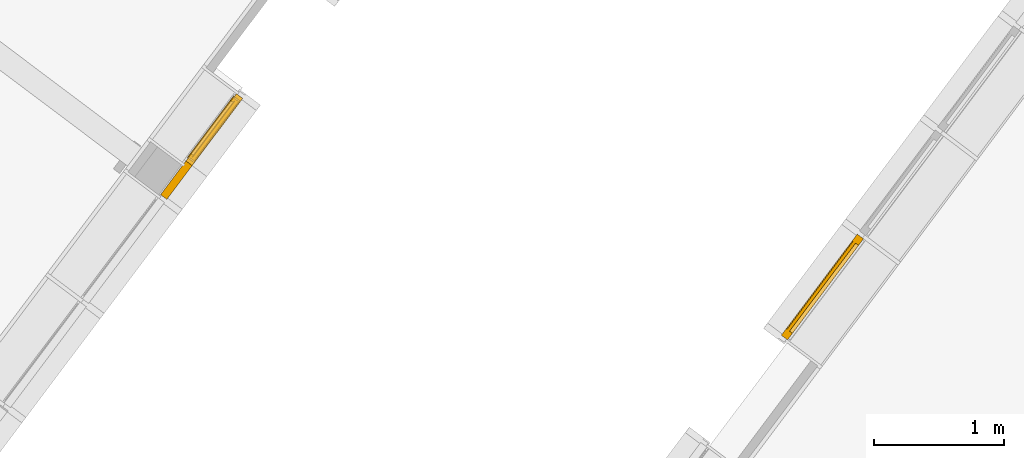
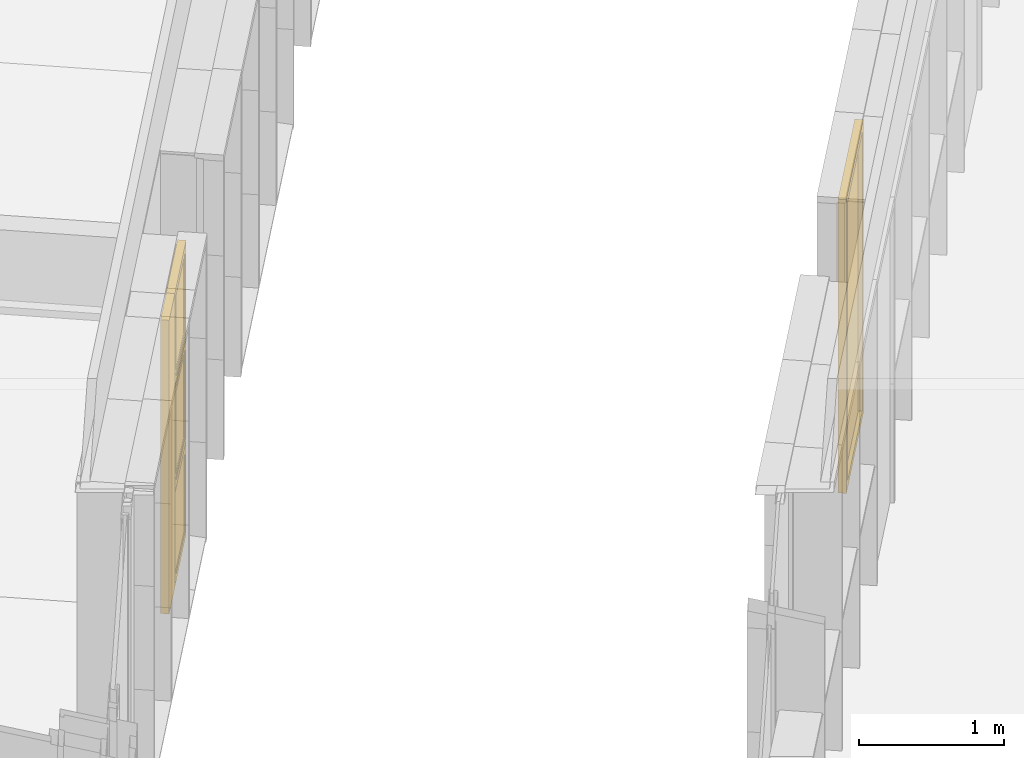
# One storey, part 186 of 243: 4 windows, 1 door, 2 elements without a shape of their own.
"""IFC2X3 building model written with IfcOpenShell, lengths in metres."""

from ifc_helpers import new_model, entity, si_unit, converted_unit, derived_unit, direction, frame, origin, origin_2d_with_axis, place, context, subcontext, project, spatial, rectangle, extrude, faceted_brep, source, transform, mapped, material, material_list, type_object, type_shapes, element, aggregate, save


model = new_model("IFC2X3")

# Units and contexts
model_context = context("Model", 3, precision=1e-05, world=origin(), true_north=direction((6.123031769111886e-17, 1.0)))
body_context = subcontext(model_context, "Body", "Model", "MODEL_VIEW")
ifc_project = project(units=[si_unit("LENGTHUNIT", "METRE"), si_unit("AREAUNIT", "SQUARE_METRE"), si_unit("VOLUMEUNIT", "CUBIC_METRE"), converted_unit("PLANEANGLEUNIT", "DEGREE", entity("IfcRatioMeasure", 0.017453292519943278), si_unit("PLANEANGLEUNIT", "RADIAN"), dimensions=[0, 0, 0, 0, 0, 0, 0]), si_unit("MASSUNIT", "GRAM", prefix="KILO"), derived_unit("MASSDENSITYUNIT", [(si_unit("MASSUNIT", "GRAM", prefix="KILO"), 1), (si_unit("LENGTHUNIT", "METRE"), -3)]), derived_unit("IONCONCENTRATIONUNIT", [(si_unit("MASSUNIT", "GRAM", prefix="KILO"), 1), (si_unit("LENGTHUNIT", "METRE"), -3)]), derived_unit("MOMENTOFINERTIAUNIT", [(si_unit("LENGTHUNIT", "METRE"), 4)]), si_unit("TIMEUNIT", "SECOND"), si_unit("FREQUENCYUNIT", "HERTZ"), si_unit("THERMODYNAMICTEMPERATUREUNIT", "DEGREE_CELSIUS"), derived_unit("THERMALTRANSMITTANCEUNIT", [(si_unit("MASSUNIT", "GRAM", prefix="KILO"), 1), (si_unit("THERMODYNAMICTEMPERATUREUNIT", "KELVIN"), -1), (si_unit("TIMEUNIT", "SECOND"), -3)]), derived_unit("THERMALCONDUCTANCEUNIT", [(si_unit("MASSUNIT", "GRAM", prefix="KILO"), 1), (si_unit("THERMODYNAMICTEMPERATUREUNIT", "KELVIN"), -1), (si_unit("TIMEUNIT", "SECOND"), -3), (si_unit("LENGTHUNIT", "METRE"), 1)]), derived_unit("VOLUMETRICFLOWRATEUNIT", [(si_unit("LENGTHUNIT", "METRE"), 3), (si_unit("TIMEUNIT", "SECOND"), -1)]), derived_unit("MASSFLOWRATEUNIT", [(si_unit("MASSUNIT", "GRAM", prefix="KILO"), 1), (si_unit("TIMEUNIT", "SECOND"), -1)]), derived_unit("ROTATIONALFREQUENCYUNIT", [(si_unit("TIMEUNIT", "SECOND"), -1)]), si_unit("ELECTRICCURRENTUNIT", "AMPERE"), si_unit("ELECTRICVOLTAGEUNIT", "VOLT"), si_unit("POWERUNIT", "WATT"), si_unit("FORCEUNIT", "NEWTON", prefix="KILO"), si_unit("ILLUMINANCEUNIT", "LUX"), si_unit("LUMINOUSFLUXUNIT", "LUMEN"), si_unit("LUMINOUSINTENSITYUNIT", "CANDELA"), derived_unit("USERDEFINED", [(si_unit("MASSUNIT", "GRAM", prefix="KILO"), -1), (si_unit("LENGTHUNIT", "METRE"), -2), (si_unit("TIMEUNIT", "SECOND"), 3), (si_unit("LUMINOUSFLUXUNIT", "LUMEN"), 1)]), derived_unit("USERDEFINED", [(si_unit("MASSUNIT", "GRAM", prefix="KILO"), 1), (si_unit("TIMEUNIT", "SECOND"), -3), (si_unit("LENGTHUNIT", "METRE"), 3), (si_unit("ELECTRICCURRENTUNIT", "AMPERE"), -2)]), derived_unit("SOUNDPOWERUNIT", [(si_unit("MASSUNIT", "GRAM", prefix="KILO"), 1), (si_unit("TIMEUNIT", "SECOND"), -3), (si_unit("LENGTHUNIT", "METRE"), 2)]), derived_unit("SOUNDPRESSUREUNIT", [(si_unit("MASSUNIT", "GRAM", prefix="KILO"), 1), (si_unit("LENGTHUNIT", "METRE"), -1), (si_unit("TIMEUNIT", "SECOND"), -2)]), derived_unit("LINEARVELOCITYUNIT", [(si_unit("LENGTHUNIT", "METRE"), 1), (si_unit("TIMEUNIT", "SECOND"), -1)]), si_unit("PRESSUREUNIT", "PASCAL"), derived_unit("USERDEFINED", [(si_unit("MASSUNIT", "GRAM", prefix="KILO"), 1), (si_unit("LENGTHUNIT", "METRE"), -2), (si_unit("TIMEUNIT", "SECOND"), -2)]), derived_unit("LINEARFORCEUNIT", [(si_unit("MASSUNIT", "GRAM", prefix="KILO"), 1), (si_unit("TIMEUNIT", "SECOND"), -2)]), derived_unit("PLANARFORCEUNIT", [(si_unit("MASSUNIT", "GRAM", prefix="KILO"), 1), (si_unit("LENGTHUNIT", "METRE"), -1), (si_unit("TIMEUNIT", "SECOND"), -2)]), derived_unit("SPECIFICHEATCAPACITYUNIT", [(si_unit("THERMODYNAMICTEMPERATUREUNIT", "KELVIN"), -1), (si_unit("LENGTHUNIT", "METRE"), 2), (si_unit("TIMEUNIT", "SECOND"), -2)]), derived_unit("HEATINGVALUEUNIT", [(si_unit("LENGTHUNIT", "METRE"), 2), (si_unit("TIMEUNIT", "SECOND"), -2)]), derived_unit("VAPORPERMEABILITYUNIT", [(si_unit("LENGTHUNIT", "METRE"), -1), (si_unit("TIMEUNIT", "SECOND"), 1)]), derived_unit("DYNAMICVISCOSITYUNIT", [(si_unit("MASSUNIT", "GRAM", prefix="KILO"), 1), (si_unit("TIMEUNIT", "SECOND"), -1), (si_unit("LENGTHUNIT", "METRE"), -1)]), derived_unit("THERMALEXPANSIONCOEFFICIENTUNIT", [(si_unit("THERMODYNAMICTEMPERATUREUNIT", "KELVIN"), -1)]), derived_unit("MODULUSOFELASTICITYUNIT", [(si_unit("MASSUNIT", "GRAM", prefix="KILO"), 1), (si_unit("LENGTHUNIT", "METRE"), -1), (si_unit("TIMEUNIT", "SECOND"), -2)]), derived_unit("ISOTHERMALMOISTURECAPACITYUNIT", [(si_unit("LENGTHUNIT", "METRE"), 3), (si_unit("MASSUNIT", "GRAM", prefix="KILO"), -1)]), derived_unit("MOISTUREDIFFUSIVITYUNIT", [(si_unit("TIMEUNIT", "SECOND"), -1), (si_unit("LENGTHUNIT", "METRE"), 2)])], contexts=[model_context])

# Site, building, storey
site_placement = place(None, frame((0.0, 0.0, 235.0), z_axis=(0.0, 0.0, 1.0), x_axis=(-0.7996477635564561, 0.6004693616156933, 0.0)))
site = spatial("IfcSite", under=ifc_project, at=site_placement, Name="Default", CompositionType="ELEMENT")
building_placement = place(site_placement, origin())
building = spatial("IfcBuilding", under=site, at=building_placement, CompositionType="ELEMENT")
storey_placement = place(building_placement, origin())
storey = spatial("IfcBuildingStorey", under=building, at=storey_placement, Name="P0- Escola", CompositionType="ELEMENT", Elevation=0.0)

# Curtain wall, door, windows
curtain_wall_type_1 = type_object("IfcCurtainWallType", Name="Muro cortina:MC- EXT- MC2", PredefinedType="NOTDEFINED")
curtain_wall_1_placement = place(storey_placement, origin())
curtain_wall_1 = element("IfcCurtainWall", 1, at=curtain_wall_1_placement, inside=storey, type_object=curtain_wall_type_1, Name="Muro cortina:MC- EXT- MC2", ObjectType="Muro cortina:MC- EXT- MC2")
ifc_material_1 = material(Name="_Alumini- T1- Perfil")
ifc_material_2 = material(Name="_Aillament")
ifc_material_list_1 = material_list([ifc_material_1, ifc_material_2])
door_style = type_object("IfcDoorStyle", Name="MC- Alu- panell especific xapa:MC- Alu- panell especific xapa", ConstructionType="NOTDEFINED", OperationType="NOTDEFINED", ParameterTakesPrecedence=False, Sizeable=False, material=ifc_material_list_1)
shared_shape_1 = source(origin(), body_context, "Body", "SweptSolid", [
    extrude(rectangle(XDim=0.005999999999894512, YDim=0.32412629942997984, at=origin_2d_with_axis()), frame((0.0, -0.057000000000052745, 0.0), z_axis=(0.0, 0.0, 1.0), x_axis=(0.0, -1.0, 0.0)), (0.0, 0.0, 1.0), 2.471449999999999),
    extrude(rectangle(XDim=0.32412629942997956, YDim=0.048000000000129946, at=origin_2d_with_axis()), frame((0.0, -0.030000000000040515, 0.0)), (0.0, 0.0, 1.0), 2.471449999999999),
    extrude(rectangle(XDim=0.005999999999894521, YDim=0.3241262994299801, at=origin_2d_with_axis()), frame((0.0, -0.003000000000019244, 0.0), z_axis=(0.0, 0.0, 1.0), x_axis=(0.0, -1.0, 0.0)), (0.0, 0.0, 1.0), 2.471449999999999),
])
type_shapes(door_style, [shared_shape_1])
door_placement = place(curtain_wall_1_placement, frame((53.74514768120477, -23.592254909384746, 0.03229999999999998), z_axis=(0.0, 0.0, 1.0), x_axis=(0.0, 1.0, 0.0)))
door = element("IfcDoor", 2, at=door_placement, type_object=door_style, material=ifc_material_list_1, Name="MC- Alu- panell especific xapa:MC- Alu- panell especific xapa", ObjectType="MC- Alu- panell especific xapa:MC- Alu- panell especific xapa", OverallHeight=2.471449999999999, OverallWidth=0.3241262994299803, context=body_context, shape_type="MappedRepresentation", body=[
    mapped(shared_shape_1, transform((0.0, 0.0, 0.0), scale=1.0)),
])
ifc_material_3 = material(Name="_Vidre")
ifc_material_list_2 = material_list([ifc_material_3, ifc_material_1])
window_style_1 = type_object("IfcWindowStyle", Name="MC- Alu- Conjunt vidre fix- 62x60 cm:MC- Alu- Conjunt vidre fix- 62x60 cm", ConstructionType="NOTDEFINED", OperationType="NOTDEFINED", ParameterTakesPrecedence=False, Sizeable=False, material=ifc_material_list_2)
shared_shape_2 = source(origin(), body_context, "Body", "Brep", [
    faceted_brep([(0.2741301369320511, -0.007600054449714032, 0.048806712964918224), (0.2741301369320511, -0.03160022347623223, 0.048806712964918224), (-0.27413013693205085, -0.03160022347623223, 0.048806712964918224), (-0.27413013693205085, -0.007600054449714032, 0.048806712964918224), (0.2741301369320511, -0.007600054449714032, 0.7387000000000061), (-0.27413013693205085, -0.007600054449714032, 0.7387000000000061), (-0.27413013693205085, -0.03160022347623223, 0.7387000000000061), (0.2741301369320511, -0.03160022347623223, 0.7387000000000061)], [[[0, 1, 2, 3]], [[4, 0, 3, 5]], [[5, 3, 2, 6]], [[6, 2, 1, 7]], [[7, 1, 0, 4]], [[4, 5, 6, 7]]]),
    faceted_brep([(0.3229368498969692, -0.05999999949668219, 0.7877000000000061), (0.3229368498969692, -0.05999999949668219, 0.0), (0.3229368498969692, 0.0, 0.0), (0.3229368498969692, 0.0, 0.7877000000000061), (-0.3229368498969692, 0.0, 0.7877000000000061), (-0.3229368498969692, 0.0, 0.0), (0.260130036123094, 0.0, 0.724893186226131), (-0.260130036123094, 0.0, 0.7248931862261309), (-0.2601300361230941, 0.0, 0.06280681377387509), (0.260130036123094, 0.0, 0.06280681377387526), (-0.3229368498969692, -0.05999999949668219, 0.0), (-0.3229368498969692, -0.05999999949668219, 0.7877000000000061), (-0.2601328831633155, -0.05999999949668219, 0.7248960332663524), (0.2601328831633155, -0.05999999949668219, 0.7248960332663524), (0.2601328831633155, -0.05999999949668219, 0.0628039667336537), (-0.2601328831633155, -0.05999999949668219, 0.0628039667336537), (0.2601328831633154, -0.03160022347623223, 0.7248960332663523), (0.2601328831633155, -0.03160022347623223, 0.0628039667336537), (-0.2601328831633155, -0.03160022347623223, 0.06280396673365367), (-0.2601328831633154, -0.03160022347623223, 0.7248960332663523), (-0.274130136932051, -0.03160022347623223, 0.7388932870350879), (0.274130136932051, -0.03160022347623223, 0.7388932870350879), (0.274130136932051, -0.03160022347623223, 0.048806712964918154), (-0.274130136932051, -0.03160022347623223, 0.04880671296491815), (0.274130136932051, -0.007600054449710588, 0.7388932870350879), (0.274130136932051, -0.007600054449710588, 0.04880671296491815), (-0.274130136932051, -0.007600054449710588, 0.048806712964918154), (-0.274130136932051, -0.007600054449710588, 0.7388932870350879), (-0.26013003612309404, -0.007600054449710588, 0.724893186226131), (0.26013003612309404, -0.007600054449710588, 0.724893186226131), (0.26013003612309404, -0.007600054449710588, 0.06280681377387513), (-0.26013003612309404, -0.007600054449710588, 0.06280681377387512)], [[[0, 1, 2, 3]], [[4, 3, 2, 5], [6, 7, 8, 9]], [[1, 10, 5, 2]], [[0, 11, 10, 1], [12, 13, 14, 15]], [[16, 17, 14, 13]], [[17, 18, 15, 14]], [[16, 19, 18, 17], [20, 21, 22, 23]], [[24, 25, 22, 21]], [[25, 26, 23, 22]], [[24, 27, 26, 25], [28, 29, 30, 31]], [[6, 9, 30, 29]], [[9, 8, 31, 30]], [[10, 11, 4, 5]], [[18, 19, 12, 15]], [[26, 27, 20, 23]], [[8, 7, 28, 31]], [[11, 0, 3, 4]], [[19, 16, 13, 12]], [[27, 24, 21, 20]], [[7, 6, 29, 28]]], outer=[[True], [True, False], [True], [True, False], [True], [True], [False, True], [True], [True], [True, False], [True], [True], [True], [True], [True], [True], [True], [True], [True], [True]]),
])
type_shapes(window_style_1, [shared_shape_2])
window_1_placement = place(curtain_wall_1_placement, frame((53.74514768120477, -24.0772549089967, 0.03229999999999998), z_axis=(0.0, 0.0, 1.0), x_axis=(0.0, 1.0, 0.0)))
window_1 = element("IfcWindow", 3, at=window_1_placement, type_object=window_style_1, material=ifc_material_list_2, Name="MC- Alu- Conjunt vidre fix- 62x60 cm:MC- Alu- Conjunt vidre fix- 62x60 cm", ObjectType="MC- Alu- Conjunt vidre fix- 62x60 cm:MC- Alu- Conjunt vidre fix- 62x60 cm", OverallHeight=0.7877000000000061, OverallWidth=0.6458736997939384, context=body_context, shape_type="MappedRepresentation", body=[
    mapped(shared_shape_2, transform((0.0, 0.0, 0.0), scale=1.0)),
])
window_style_2 = type_object("IfcWindowStyle", Name="MC- Alu- Conjunt finestra basculant- 68x68 cm:MC- Alu- Conjunt finestra basculant- 68x68 cm", ConstructionType="NOTDEFINED", OperationType="NOTDEFINED", ParameterTakesPrecedence=False, Sizeable=False, material=ifc_material_list_2)
shared_shape_3 = source(origin(), body_context, "Body", "Brep", [
    faceted_brep([(0.2708485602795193, -0.03559830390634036, 0.051999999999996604), (-0.27084856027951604, -0.03559830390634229, 0.051999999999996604), (-0.2708485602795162, -0.011598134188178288, 0.051999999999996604), (0.27084856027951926, -0.011598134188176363, 0.051999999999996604), (0.2708485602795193, -0.03559830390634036, 0.82280278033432), (0.27084856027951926, -0.011598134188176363, 0.82280278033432), (-0.27084856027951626, -0.011598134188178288, 0.82280278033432), (-0.27084856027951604, -0.03559830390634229, 0.82280278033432)], [[[0, 1, 2, 3]], [[4, 0, 3, 5]], [[5, 3, 2, 6]], [[6, 2, 1, 7]], [[7, 1, 0, 4]], [[4, 5, 6, 7]]]),
    faceted_brep([(-0.2551477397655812, -0.009998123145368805, 0.8071019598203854), (-0.2551477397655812, -0.009998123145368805, 0.06789804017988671), (-0.2551477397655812, -0.007998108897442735, 0.06789804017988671), (-0.2551477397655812, -0.007998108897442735, 0.8071019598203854), (-0.284045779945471, -0.007998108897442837, 0.8360000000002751), (0.28404577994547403, -0.007998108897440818, 0.8360000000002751), (0.2840457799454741, -0.007998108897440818, 0.038999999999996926), (-0.284045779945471, -0.007998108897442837, 0.03899999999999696), (0.25514773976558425, -0.007998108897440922, 0.8071019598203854), (0.25514773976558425, -0.007998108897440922, 0.06789804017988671), (0.25514773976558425, -0.009998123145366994, 0.06789804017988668), (0.25514773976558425, -0.009998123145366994, 0.8071019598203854), (0.2708485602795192, -0.009998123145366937, 0.8228027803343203), (-0.27084856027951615, -0.00999812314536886, 0.8228027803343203), (-0.27084856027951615, -0.00999812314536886, 0.05219721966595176), (0.2708485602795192, -0.009998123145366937, 0.052197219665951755), (-0.27084856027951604, -0.04079986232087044, 0.8228027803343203), (-0.27084856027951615, -0.04079986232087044, 0.052197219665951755), (0.27084856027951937, -0.04079986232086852, 0.05219721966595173), (0.27084856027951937, -0.04079986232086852, 0.8228027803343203), (0.25514773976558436, -0.040799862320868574, 0.8071019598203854), (-0.2551477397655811, -0.040799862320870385, 0.8071019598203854), (-0.2551477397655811, -0.040799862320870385, 0.06789804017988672), (0.25514773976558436, -0.040799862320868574, 0.06789804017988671), (-0.255147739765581, -0.06800005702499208, 0.8071019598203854), (-0.255147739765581, -0.06800005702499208, 0.06789804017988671), (0.2551477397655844, -0.06800005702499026, 0.06789804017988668), (0.25514773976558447, -0.06800005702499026, 0.8071019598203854), (0.3015497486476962, -0.0680000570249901, 0.853503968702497), (-0.3015497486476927, -0.06800005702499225, 0.853503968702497), (-0.3015497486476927, -0.06800005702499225, 0.021496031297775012), (0.3015497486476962, -0.0680000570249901, 0.021496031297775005), (-0.3015497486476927, -0.06450003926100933, 0.853503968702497), (-0.3015497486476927, -0.06450003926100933, 0.021496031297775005), (0.3015497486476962, -0.0645000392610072, 0.021496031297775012), (0.3015497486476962, -0.06450003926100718, 0.853503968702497), (0.2840457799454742, -0.06450003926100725, 0.8360000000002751), (-0.28404577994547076, -0.06450003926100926, 0.8360000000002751), (-0.28404577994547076, -0.06450003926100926, 0.03899999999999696), (0.2840457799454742, -0.06450003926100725, 0.038999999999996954)], [[[0, 1, 2, 3]], [[4, 5, 6, 7], [8, 3, 2, 9]], [[1, 10, 9, 2]], [[0, 11, 10, 1], [12, 13, 14, 15]], [[16, 17, 14, 13]], [[17, 18, 15, 14]], [[16, 19, 18, 17], [20, 21, 22, 23]], [[24, 25, 22, 21]], [[25, 26, 23, 22]], [[24, 27, 26, 25], [28, 29, 30, 31]], [[32, 33, 30, 29]], [[33, 34, 31, 30]], [[32, 35, 34, 33], [36, 37, 38, 39]], [[4, 7, 38, 37]], [[7, 6, 39, 38]], [[10, 11, 8, 9]], [[18, 19, 12, 15]], [[26, 27, 20, 23]], [[34, 35, 28, 31]], [[6, 5, 36, 39]], [[11, 0, 3, 8]], [[19, 16, 13, 12]], [[27, 24, 21, 20]], [[35, 32, 29, 28]], [[5, 4, 37, 36]]], outer=[[True], [True, False], [True], [False, True], [True], [True], [True, False], [True], [True], [False, True], [True], [True], [True, False], [True], [True], [True], [True], [True], [True], [True], [True], [True], [True], [True], [True]]),
    faceted_brep([(0.26013003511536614, 0.0, 0.8121931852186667), (0.26013003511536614, 0.0, 0.06280681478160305), (0.26013003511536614, -0.0040000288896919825, 0.06280681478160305), (0.26013003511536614, -0.0040000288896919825, 0.8121931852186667), (-0.26013003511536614, -0.0040000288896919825, 0.8121931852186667), (-0.26013003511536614, -0.0040000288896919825, 0.06280681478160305), (0.295536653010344, -0.0040000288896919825, 0.8475998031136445), (-0.295536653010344, -0.0040000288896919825, 0.8475998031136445), (-0.295536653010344, -0.0040000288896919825, 0.027400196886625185), (0.295536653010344, -0.0040000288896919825, 0.02740019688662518), (-0.26013003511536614, 0.0, 0.06280681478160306), (-0.26013003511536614, 0.0, 0.8121931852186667), (-0.322936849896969, 0.0, 0.8750000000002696), (0.322936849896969, 0.0, 0.8750000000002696), (0.322936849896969, 0.0, 0.0), (-0.322936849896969, 0.0, 0.0), (0.322936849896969, -0.05999999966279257, 0.8750000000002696), (0.322936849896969, -0.05999999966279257, 0.0), (-0.322936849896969, -0.05999999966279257, 0.0), (-0.322936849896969, -0.05999999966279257, 0.8750000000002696), (-0.295536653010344, -0.05999999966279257, 0.8475998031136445), (0.295536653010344, -0.05999999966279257, 0.8475998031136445), (0.295536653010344, -0.05999999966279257, 0.027400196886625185), (-0.295536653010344, -0.05999999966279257, 0.02740019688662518)], [[[0, 1, 2, 3]], [[4, 3, 2, 5], [6, 7, 8, 9]], [[1, 10, 5, 2]], [[0, 11, 10, 1], [12, 13, 14, 15]], [[16, 17, 14, 13]], [[17, 18, 15, 14]], [[16, 19, 18, 17], [20, 21, 22, 23]], [[6, 9, 22, 21]], [[9, 8, 23, 22]], [[10, 11, 4, 5]], [[18, 19, 12, 15]], [[8, 7, 20, 23]], [[11, 0, 3, 4]], [[19, 16, 13, 12]], [[7, 6, 21, 20]]], outer=[[True], [False, True], [True], [False, True], [True], [True], [True, False], [True], [True], [True], [True], [True], [True], [True], [True]]),
])
type_shapes(window_style_2, [shared_shape_3])
window_2_placement = place(curtain_wall_1_placement, frame((53.74514768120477, -24.0772549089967, 0.8200000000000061), z_axis=(0.0, 0.0, 1.0), x_axis=(0.0, 1.0, 0.0)))
window_2 = element("IfcWindow", 4, at=window_2_placement, type_object=window_style_2, material=ifc_material_list_2, Name="MC- Alu- Conjunt finestra basculant- 68x68 cm:MC- Alu- Conjunt finestra basculant- 68x68 cm", ObjectType="MC- Alu- Conjunt finestra basculant- 68x68 cm:MC- Alu- Conjunt finestra basculant- 68x68 cm", OverallHeight=0.8750000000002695, OverallWidth=0.6458736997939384, context=body_context, shape_type="MappedRepresentation", body=[
    mapped(shared_shape_3, transform((0.0, 0.0, 0.0), scale=1.0)),
])
window_style_3 = type_object("IfcWindowStyle", Name="MC- Alu- Conjunt finestra basculant- 68x68 cm:MC- Alu- Conjunt finestra basculant- 68x68 cm", ConstructionType="NOTDEFINED", OperationType="NOTDEFINED", ParameterTakesPrecedence=False, Sizeable=False, material=ifc_material_list_2)
shared_shape_4 = source(origin(), body_context, "Body", "Brep", [
    faceted_brep([(0.2708485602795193, -0.03559830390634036, 0.051999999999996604), (-0.27084856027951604, -0.03559830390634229, 0.051999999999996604), (-0.27084856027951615, -0.011598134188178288, 0.051999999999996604), (0.27084856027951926, -0.011598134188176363, 0.051999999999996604), (0.2708485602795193, -0.03559830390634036, 0.7565527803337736), (0.27084856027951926, -0.011598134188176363, 0.7565527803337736), (-0.27084856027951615, -0.011598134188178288, 0.7565527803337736), (-0.27084856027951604, -0.03559830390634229, 0.7565527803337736)], [[[0, 1, 2, 3]], [[4, 0, 3, 5]], [[5, 3, 2, 6]], [[6, 2, 1, 7]], [[7, 1, 0, 4]], [[4, 5, 6, 7]]]),
    faceted_brep([(-0.2551477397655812, -0.009998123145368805, 0.7408519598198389), (-0.2551477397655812, -0.009998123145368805, 0.06789804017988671), (-0.2551477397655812, -0.007998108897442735, 0.06789804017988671), (-0.2551477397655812, -0.007998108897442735, 0.7408519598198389), (-0.284045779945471, -0.007998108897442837, 0.7697499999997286), (0.28404577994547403, -0.007998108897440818, 0.7697499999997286), (0.2840457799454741, -0.007998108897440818, 0.038999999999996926), (-0.284045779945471, -0.007998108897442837, 0.03899999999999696), (0.25514773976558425, -0.007998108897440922, 0.7408519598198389), (0.25514773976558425, -0.007998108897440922, 0.06789804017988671), (0.25514773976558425, -0.009998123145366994, 0.06789804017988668), (0.25514773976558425, -0.009998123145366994, 0.7408519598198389), (0.2708485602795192, -0.009998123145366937, 0.7565527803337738), (-0.27084856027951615, -0.00999812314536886, 0.7565527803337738), (-0.27084856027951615, -0.00999812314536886, 0.05219721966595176), (0.2708485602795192, -0.009998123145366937, 0.052197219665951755), (-0.27084856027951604, -0.04079986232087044, 0.7565527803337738), (-0.27084856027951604, -0.04079986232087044, 0.052197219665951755), (0.27084856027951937, -0.04079986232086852, 0.05219721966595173), (0.2708485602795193, -0.04079986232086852, 0.7565527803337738), (0.25514773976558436, -0.040799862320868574, 0.7408519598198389), (-0.2551477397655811, -0.040799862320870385, 0.7408519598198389), (-0.2551477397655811, -0.040799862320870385, 0.06789804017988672), (0.25514773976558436, -0.040799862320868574, 0.06789804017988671), (-0.255147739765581, -0.06800005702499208, 0.7408519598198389), (-0.255147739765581, -0.06800005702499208, 0.06789804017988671), (0.2551477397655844, -0.06800005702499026, 0.06789804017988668), (0.25514773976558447, -0.06800005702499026, 0.7408519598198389), (0.3015497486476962, -0.0680000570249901, 0.7872539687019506), (-0.3015497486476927, -0.06800005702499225, 0.7872539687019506), (-0.3015497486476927, -0.06800005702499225, 0.021496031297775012), (0.3015497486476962, -0.0680000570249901, 0.021496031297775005), (-0.3015497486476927, -0.06450003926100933, 0.7872539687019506), (-0.3015497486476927, -0.06450003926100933, 0.021496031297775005), (0.3015497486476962, -0.0645000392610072, 0.021496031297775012), (0.3015497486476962, -0.06450003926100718, 0.7872539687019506), (0.2840457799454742, -0.06450003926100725, 0.7697499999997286), (-0.28404577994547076, -0.06450003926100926, 0.7697499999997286), (-0.28404577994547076, -0.06450003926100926, 0.03899999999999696), (0.2840457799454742, -0.06450003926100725, 0.038999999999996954)], [[[0, 1, 2, 3]], [[4, 5, 6, 7], [8, 3, 2, 9]], [[1, 10, 9, 2]], [[0, 11, 10, 1], [12, 13, 14, 15]], [[16, 17, 14, 13]], [[17, 18, 15, 14]], [[16, 19, 18, 17], [20, 21, 22, 23]], [[24, 25, 22, 21]], [[25, 26, 23, 22]], [[24, 27, 26, 25], [28, 29, 30, 31]], [[32, 33, 30, 29]], [[33, 34, 31, 30]], [[32, 35, 34, 33], [36, 37, 38, 39]], [[4, 7, 38, 37]], [[7, 6, 39, 38]], [[10, 11, 8, 9]], [[18, 19, 12, 15]], [[26, 27, 20, 23]], [[34, 35, 28, 31]], [[6, 5, 36, 39]], [[11, 0, 3, 8]], [[19, 16, 13, 12]], [[27, 24, 21, 20]], [[35, 32, 29, 28]], [[5, 4, 37, 36]]], outer=[[True], [True, False], [True], [False, True], [True], [True], [True, False], [True], [True], [False, True], [True], [True], [True, False], [True], [True], [True], [True], [True], [True], [True], [True], [True], [True], [True], [True]]),
    faceted_brep([(0.26013003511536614, 0.0, 0.7459431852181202), (0.2601300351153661, 0.0, 0.06280681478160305), (0.2601300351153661, -0.0040000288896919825, 0.06280681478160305), (0.26013003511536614, -0.0040000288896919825, 0.7459431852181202), (-0.26013003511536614, -0.0040000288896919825, 0.7459431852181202), (-0.26013003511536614, -0.0040000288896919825, 0.06280681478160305), (0.295536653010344, -0.0040000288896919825, 0.7813498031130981), (-0.29553665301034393, -0.0040000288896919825, 0.781349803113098), (-0.295536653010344, -0.0040000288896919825, 0.027400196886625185), (0.29553665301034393, -0.0040000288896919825, 0.027400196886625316), (-0.26013003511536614, 0.0, 0.06280681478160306), (-0.2601300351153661, 0.0, 0.7459431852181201), (-0.322936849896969, 0.0, 0.8087499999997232), (0.322936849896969, 0.0, 0.8087499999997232), (0.322936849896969, 0.0, 0.0), (-0.322936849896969, 0.0, 0.0), (0.322936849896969, -0.05999999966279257, 0.8087499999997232), (0.322936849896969, -0.05999999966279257, 0.0), (-0.322936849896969, -0.05999999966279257, 0.0), (-0.322936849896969, -0.05999999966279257, 0.8087499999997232), (-0.295536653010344, -0.05999999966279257, 0.7813498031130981), (0.295536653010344, -0.05999999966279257, 0.7813498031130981), (0.295536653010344, -0.05999999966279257, 0.027400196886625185), (-0.295536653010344, -0.05999999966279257, 0.02740019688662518)], [[[0, 1, 2, 3]], [[4, 3, 2, 5], [6, 7, 8, 9]], [[1, 10, 5, 2]], [[0, 11, 10, 1], [12, 13, 14, 15]], [[16, 17, 14, 13]], [[17, 18, 15, 14]], [[16, 19, 18, 17], [20, 21, 22, 23]], [[6, 9, 22, 21]], [[9, 8, 23, 22]], [[10, 11, 4, 5]], [[18, 19, 12, 15]], [[8, 7, 20, 23]], [[11, 0, 3, 4]], [[19, 16, 13, 12]], [[7, 6, 21, 20]]], outer=[[True], [False, True], [True], [False, True], [True], [True], [True, False], [True], [True], [True], [True], [True], [True], [True], [True]]),
])
type_shapes(window_style_3, [shared_shape_4])
window_3_placement = place(curtain_wall_1_placement, frame((53.74514768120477, -24.0772549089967, 1.6950000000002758), z_axis=(0.0, 0.0, 1.0), x_axis=(0.0, 1.0, 0.0)))
window_3 = element("IfcWindow", 5, at=window_3_placement, type_object=window_style_3, material=ifc_material_list_2, Name="MC- Alu- Conjunt finestra basculant- 68x68 cm:MC- Alu- Conjunt finestra basculant- 68x68 cm", ObjectType="MC- Alu- Conjunt finestra basculant- 68x68 cm:MC- Alu- Conjunt finestra basculant- 68x68 cm", OverallHeight=0.8087499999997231, OverallWidth=0.6458736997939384, context=body_context, shape_type="MappedRepresentation", body=[
    mapped(shared_shape_4, transform((0.0, 0.0, 0.0), scale=1.0)),
])
aggregate(curtain_wall_1, [door, window_1, window_2, window_3])

# Curtain wall, window
curtain_wall_type_2 = type_object("IfcCurtainWallType", Name="Muro cortina:MC- EXT- MC5", PredefinedType="NOTDEFINED")
curtain_wall_2_placement = place(storey_placement, origin())
curtain_wall_2 = element("IfcCurtainWall", 6, at=curtain_wall_2_placement, inside=storey, type_object=curtain_wall_type_2, Name="Muro cortina:MC- EXT- MC5", ObjectType="Muro cortina:MC- EXT- MC5")
window_style_4 = type_object("IfcWindowStyle", Name="MC- Alu- Conjunt vidre fix- 62x60 cm:MC- Alu- Conjunt vidre fix- 62x60 cm", ConstructionType="NOTDEFINED", OperationType="NOTDEFINED", ParameterTakesPrecedence=False, Sizeable=False, material=ifc_material_list_2)
shared_shape_5 = source(origin(), body_context, "Body", "Brep", [
    faceted_brep([(0.43619328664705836, -0.007600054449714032, 0.048806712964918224), (0.43619328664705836, -0.03160022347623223, 0.048806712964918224), (-0.4361932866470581, -0.03160022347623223, 0.048806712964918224), (-0.4361932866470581, -0.007600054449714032, 0.048806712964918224), (0.43619328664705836, -0.007600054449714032, 2.422449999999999), (-0.4361932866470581, -0.007600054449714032, 2.422449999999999), (-0.4361932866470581, -0.03160022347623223, 2.422449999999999), (0.43619328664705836, -0.03160022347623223, 2.422449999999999)], [[[0, 1, 2, 3]], [[4, 0, 3, 5]], [[5, 3, 2, 6]], [[6, 2, 1, 7]], [[7, 1, 0, 4]], [[4, 5, 6, 7]]]),
    faceted_brep([(0.48499999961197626, -0.05999999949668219, 2.471449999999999), (0.48499999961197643, -0.05999999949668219, 0.0), (0.48499999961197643, 0.0, 0.0), (0.48499999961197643, 0.0, 2.471449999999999), (-0.48499999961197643, 0.0, 2.471449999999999), (-0.48499999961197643, 0.0, 0.0), (0.4221931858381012, 0.0, 2.408643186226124), (-0.4221931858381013, 0.0, 2.408643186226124), (-0.4221931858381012, 0.0, 0.06280681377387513), (0.4221931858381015, 0.0, 0.06280681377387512), (-0.48499999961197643, -0.05999999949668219, 0.0), (-0.4849999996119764, -0.05999999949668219, 2.471449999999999), (-0.4221960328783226, -0.05999999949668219, 2.4086460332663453), (0.4221960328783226, -0.05999999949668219, 2.4086460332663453), (0.4221960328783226, -0.05999999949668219, 0.06280396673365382), (-0.4221960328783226, -0.05999999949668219, 0.06280396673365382), (0.42219603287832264, -0.03160022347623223, 2.4086460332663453), (0.4221960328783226, -0.03160022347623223, 0.06280396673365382), (-0.4221960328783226, -0.03160022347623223, 0.06280396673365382), (-0.4221960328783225, -0.03160022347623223, 2.4086460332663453), (-0.43619328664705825, -0.03160022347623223, 2.422643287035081), (0.43619328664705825, -0.03160022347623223, 2.422643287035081), (0.43619328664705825, -0.03160022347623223, 0.048806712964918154), (-0.43619328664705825, -0.03160022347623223, 0.04880671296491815), (0.43619328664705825, -0.007600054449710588, 2.422643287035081), (0.4361932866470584, -0.007600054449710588, 0.04880671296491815), (-0.43619328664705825, -0.007600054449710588, 0.048806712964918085), (-0.43619328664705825, -0.007600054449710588, 2.422643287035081), (-0.4221931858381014, -0.007600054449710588, 2.408643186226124), (0.4221931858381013, -0.007600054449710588, 2.408643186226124), (0.4221931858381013, -0.007600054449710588, 0.06280681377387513), (-0.4221931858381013, -0.007600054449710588, 0.06280681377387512)], [[[0, 1, 2, 3]], [[4, 3, 2, 5], [6, 7, 8, 9]], [[1, 10, 5, 2]], [[0, 11, 10, 1], [12, 13, 14, 15]], [[16, 17, 14, 13]], [[17, 18, 15, 14]], [[16, 19, 18, 17], [20, 21, 22, 23]], [[24, 25, 22, 21]], [[25, 26, 23, 22]], [[24, 27, 26, 25], [28, 29, 30, 31]], [[6, 9, 30, 29]], [[9, 8, 31, 30]], [[10, 11, 4, 5]], [[18, 19, 12, 15]], [[26, 27, 20, 23]], [[8, 7, 28, 31]], [[11, 0, 3, 4]], [[19, 16, 13, 12]], [[27, 24, 21, 20]], [[7, 6, 29, 28]]], outer=[[True], [True, False], [True], [True, False], [True], [True], [False, True], [True], [True], [True, False], [True], [True], [True], [True], [True], [True], [True], [True], [True], [True]]),
])
type_shapes(window_style_4, [shared_shape_5])
window_4_placement = place(curtain_wall_2_placement, frame((49.345147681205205, -25.915191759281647, 0.03229999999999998), z_axis=(0.0, 0.0, 1.0), x_axis=(0.0, -1.0, 0.0)))
window_4 = element("IfcWindow", 7, at=window_4_placement, type_object=window_style_4, material=ifc_material_list_2, Name="MC- Alu- Conjunt vidre fix- 62x60 cm:MC- Alu- Conjunt vidre fix- 62x60 cm", ObjectType="MC- Alu- Conjunt vidre fix- 62x60 cm:MC- Alu- Conjunt vidre fix- 62x60 cm", OverallHeight=2.471449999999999, OverallWidth=0.969999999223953, context=body_context, shape_type="MappedRepresentation", body=[
    mapped(shared_shape_5, transform((0.0, 0.0, 0.0), scale=1.0)),
])
aggregate(curtain_wall_2, [window_4])

save(model, "model.ifc")
